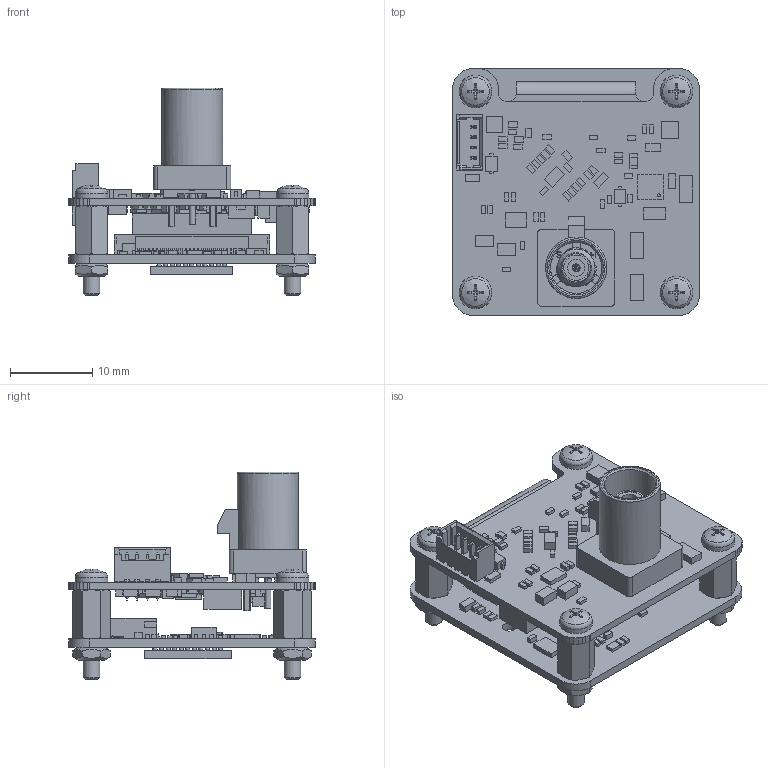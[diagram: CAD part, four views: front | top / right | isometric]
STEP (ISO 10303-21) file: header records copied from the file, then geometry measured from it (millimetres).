
FILE_DESCRIPTION(/* description */ ('289-20-2-13-00'),/* implementation_level */ '2;1');
FILE_NAME(/* name */ 'D:\HiDrive\1_Konstruktion\1_KUNDEN\TIS\289-20_MIPI-Dokumentation\289-20-2-13-00_CX-R120_IMX390-R100.stp',/* time_stamp */ '2020-12-17T08:42:43+01:00',/* author */ ('Westermann'),/* organization */ ('TIS, Bremen-Germany'),/* preprocessor_version */ 'ST-DEVELOPER v16.5',/* originating_system */ 'Autodesk Inventor 2017',/* authorisation */ '');
FILE_SCHEMA (('AUTOMOTIVE_DESIGN { 1 0 10303 214 3 1 1 }'));
Length unit declared in the file: millimetre
Products named in the file (6): 289-20-2-13-00_CX-R120_IMX390-R100; ISO 4032 - M2; ISO 7045 - M2 x 4 - 4.8 - H; IMX390_MIPI_HB_R1_00; TISMIPI_SER953_R1-20; Distanzbolzen-IA-M2x6_0100018_SIBALCO
Assembly tree (14 placements, depth 2):
  289-20-2-13-00_CX-R120_IMX390-R100
    ISO 4032 - M2  x4
    ISO 7045 - M2 x 4 - 4.8 - H  x4
    IMX390_MIPI_HB_R1_00
    TISMIPI_SER953_R1-20
    Distanzbolzen-IA-M2x6_0100018_SIBALCO  x4
Bounding box: 30.1 x 30.1 x 25.34 mm (x, y, z)
Volume: 3308.9 mm3; surface area: 7926 mm2
Topology: 18 solids, 20 shells, 3531 faces, 9617 edges, 6255 vertices
Faces by surface type: plane 2969, cylinder 295, cone 138, sphere 100, torus 29
Full cylindrical faces by diameter (mm): 0.388 x1, 0.5 x5, 0.613 x1, 0.75 x1, 0.95 x2, 1.2 x1, 1.325 x1, 1.4 x4, 1.567 x8, 1.7 x2, 1.783 x4, 2 x8, 2.08 x1, 2.1 x8, 3.05 x2, 3.2 x1, 3.68 x1, 3.8 x1, 4.35 x1, 4.6 x1, 6.25 x1, 7.45 x1
Entity records: 105671 total; most frequent: CARTESIAN_POINT 18178, ORIENTED_EDGE 17702, DIRECTION 16239, EDGE_CURVE 8851, LINE 8013, VECTOR 8013, VERTEX_POINT 5838, AXIS2_PLACEMENT_3D 4113
